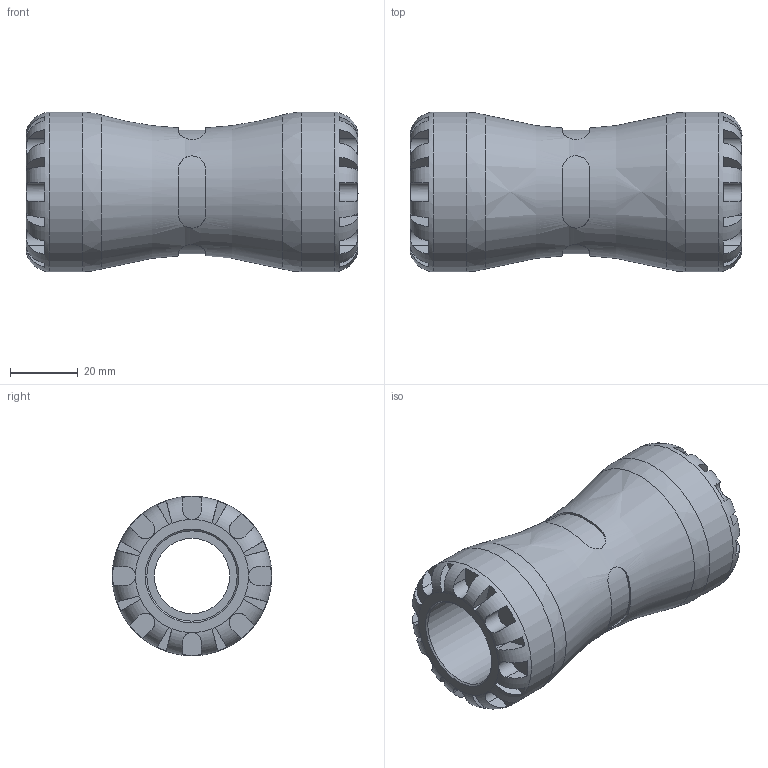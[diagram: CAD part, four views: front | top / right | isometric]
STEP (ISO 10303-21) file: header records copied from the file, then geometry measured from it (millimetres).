
FILE_DESCRIPTION(/* description */ ('PLASSON COUPLER 3/4''''IPS x 3/4''''IPS SERIES 1'),/* implementation_level */ '2;1');
FILE_NAME(/* name */ 'C:\Dropbox\KIMPROJECTS-Inventor 2019\99-16-3568-Processing Inch\ASTM S1 2021\1001A\1001A6007.ipt.stp',/* time_stamp */ '2021-09-02T11:59:56+03:00',/* author */ ('KIM'),/* organization */ (''),/* preprocessor_version */ 'ST-DEVELOPER v17.2',/* originating_system */ 'Autodesk Inventor 2019',/* authorisation */ '');
FILE_SCHEMA (('AUTOMOTIVE_DESIGN { 1 0 10303 214 3 1 1 }'));
Length unit declared in the file: inch
Products named in the file (1): 1001A6007
Bounding box: 97.79 x 46.99 x 46.99 mm (x, y, z)
Volume: 84237.9 mm3; surface area: 25171.7 mm2
Topology: 1 solids, 1 shells, 164 faces, 431 edges, 274 vertices
Faces by surface type: plane 108, cylinder 49, torus 3, cone 2, bspline 2
Full cylindrical faces by diameter (mm): 22.167 x1, 26.6 x2, 46.99 x2
Entity records: 6681 total; most frequent: CARTESIAN_POINT 2502, ORIENTED_EDGE 862, DIRECTION 813, EDGE_CURVE 431, AXIS2_PLACEMENT_3D 331, VERTEX_POINT 274, EDGE_LOOP 171, CIRCLE 168
